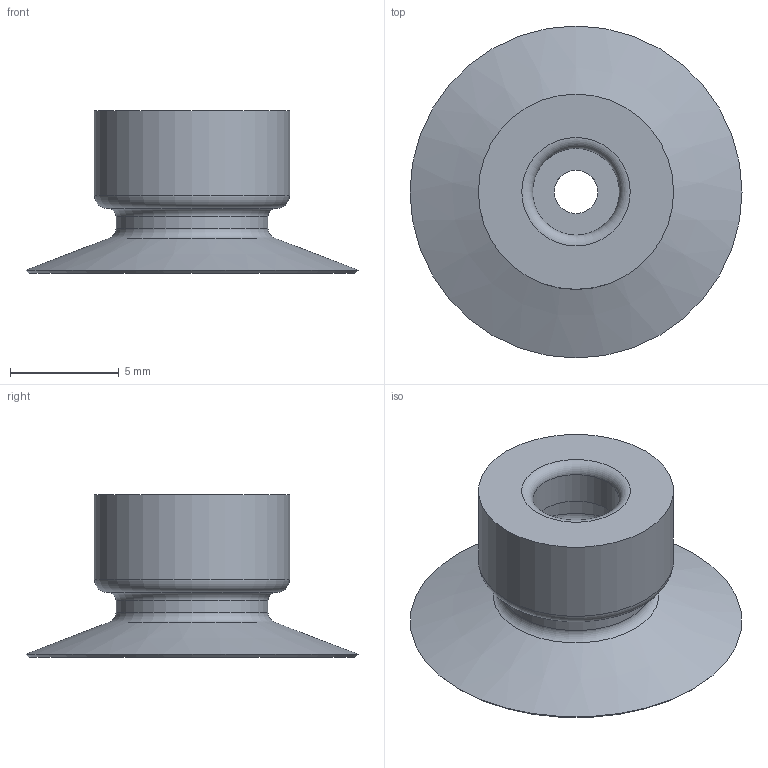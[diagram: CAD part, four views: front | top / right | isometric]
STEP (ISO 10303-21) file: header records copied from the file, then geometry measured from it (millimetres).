
FILE_DESCRIPTION(('STEP AP203'),'1');
FILE_NAME('_3D.stp','2024-06-11T23:04:31',(' '),(' '),'Spatial InterOp 3D',' ',' ');
FILE_SCHEMA(('CONFIG_CONTROL_DESIGN'));
Length unit declared in the file: millimetre
Products named in the file (1): 1
Bounding box: 15.3 x 15.3 x 7.5 mm (x, y, z)
Volume: 308.7 mm3; surface area: 695.2 mm2
Topology: 1 solids, 1 shells, 50 faces, 85 edges, 55 vertices
Faces by surface type: cylinder 21, plane 20, torus 6, cone 3
Full cylindrical faces by diameter (mm): 0.9 x16, 2 x1, 4 x1, 6 x1, 7 x1, 9 x1
Entity records: 1052 total; most frequent: DIRECTION 202, CARTESIAN_POINT 151, AXIS2_PLACEMENT_3D 101, EDGE_LOOP 100, ORIENTED_EDGE 100, FACE_OUTER_BOUND 77, ADVANCED_FACE 50, EDGE_CURVE 50
